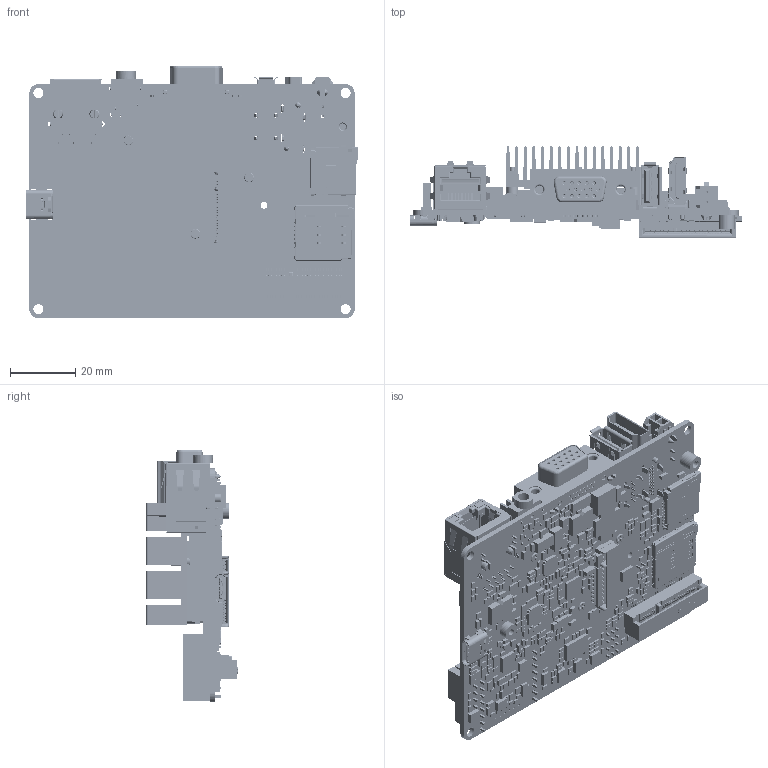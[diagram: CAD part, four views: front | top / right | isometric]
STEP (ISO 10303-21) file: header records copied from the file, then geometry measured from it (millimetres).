
FILE_DESCRIPTION((''),'2;1');
FILE_NAME('TN100-TN73-HS12_ASM_6_ASM','2021-03-03T',('gary'),(''),'CREO PARAMETRIC BY PTC INC, 2014350','CREO PARAMETRIC BY PTC INC, 2014350','');
FILE_SCHEMA(('AUTOMOTIVE_DESIGN { 1 0 10303 214 1 1 1 1 }'));
Products named in the file (138): PCB_PICO_ITX_71; CONN_DF40C-70DP-04V_5; FEMALE_HEADER_1X8_5; PIN_HOLDER_1X3_P02_5; 2X1_1_1_2_3; KRJ-14462-108XX_6; USB-90__4; USB_TOUCH_1_1_2_3; MSBR-14_3; MSBR-13_2; MSBR-12_2; MSBR-11_2; MSBR-10_2; MSBR-9_2; MSBR-8_2; MSBR-7_2; MSBR-6_2; MSBR-5_2; MSBR-4_2; MSBR-3_2; MSBR-2_2; MSBR-1_2; MWCSD03S012R_ASM_5_ASM; WAFER_2; CONN_FP124-404M4_4; PCIE-M2_3_1_2_3; AAA-PCI-073-P08_6_1_2_4; CONN_2X5PIN_4; DX07S024-SL2_1-3-SOLID1_3; AUDIO_PJD-035-47B_9; KDSS3-15F-1NL-X_D-SUB_SLIM_15F_; CON_125P_2PIN_1; SATA_POWER_2X2P_2; BREP_1_2; BREP_2_2; BREP_3_2; BREP_4_2; BREP_5_2; BREP_6_2; BREP_7_2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
Assembly tree (1221 placements, depth 4):
  TN100-TN73-HS12_ASM_6_ASM
    PICO-NYMPH_ASM_143_ASM
      PCB_PICO_ITX_71
      CONN_DF40C-70DP-04V_5  x3
      FEMALE_HEADER_1X8_5  x2
      PIN_HOLDER_1X3_P02_5  x4
      2X1_1_1_2_3
      KRJ-14462-108XX_6
      USB-90__4
      USB_TOUCH_1_1_2_3
      MWCSD03S012R_ASM_5_ASM
        MSBR-14_3
        MSBR-13_2
        MSBR-12_2
        MSBR-11_2
        MSBR-10_2
        MSBR-9_2
        MSBR-8_2
        MSBR-7_2
        MSBR-6_2
        MSBR-5_2
        MSBR-4_2
        MSBR-3_2
        MSBR-2_2
        MSBR-1_2
      WAFER_2
      CONN_FP124-404M4_4
      PCIE-M2_3_1_2_3
      AAA-PCI-073-P08_6_1_2_4
      CONN_2X5PIN_4  x3
      DX07S024-SL2_1-3-SOLID1_3
      AUDIO_PJD-035-47B_9
      KDSS3-15F-1NL-X_D-SUB_SLIM_15F_
      CON_125P_2PIN_1
      SATA_POWER_2X2P_2
      KHD16-X1012XX10_HDMI_ASM_10_ASM
        BREP_1_2
        BREP_2_2
        BREP_3_2
        BREP_4_2
        BREP_5_2
        BREP_6_2
        BREP_7_2
        BREP_8_2
        BREP_9_2
        BREP_10_2
        BREP_11_2
        BREP_12_2
        BREP_13_2
        BREP_14_2
        BREP_15_2
        BREP0_10
      MICRO_SIM_CARD_40GI-001_1_ASM_5_ASM
        HOUSING_2
        SHELL_2
        DUANZI2_2_2  x3
        DUANZI_2_2  x3
        DUANZI2_3_2
      M2_CU_BOSS_13
      PCIE-B50M20L043_2
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Bounding box: 102 x 27.98 x 77.6 mm (x, y, z)
Volume: 40738.9 mm3; surface area: 77826.8 mm2
Topology: 1211 solids, 1747 shells, 22177 faces, 57407 edges, 38441 vertices
Faces by surface type: plane 18474, cylinder 3166, torus 233, bspline 126, cone 104, extrusion 56, sphere 14, revolution 4
Entity records: 598298 total; most frequent: CARTESIAN_POINT 105970, DIRECTION 74849, ORIENTED_EDGE 73642, EDGE_CURVE 38265, VECTOR 30467, LINE 30411, VERTEX_POINT 25689, AXIS2_PLACEMENT_3D 22189
